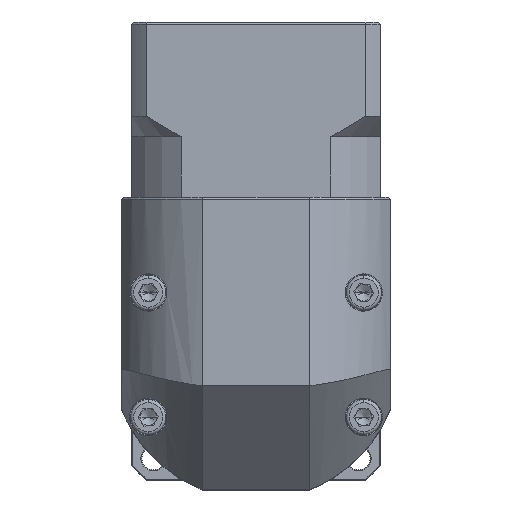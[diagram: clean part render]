
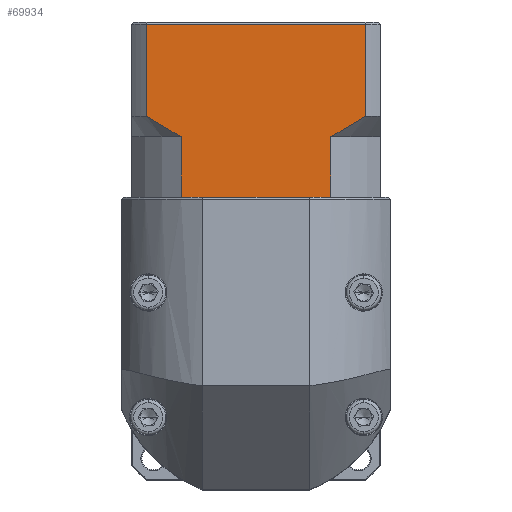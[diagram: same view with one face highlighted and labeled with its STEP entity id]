
A CAD part, top view. The second image highlights one B-rep face of the part: STEP entity #69934.
In plain terms, the highlighted planar face has unit normal (0, 0, 1).
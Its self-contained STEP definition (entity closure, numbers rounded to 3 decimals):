
#2590 = VERTEX_POINT ( 'NONE', #14181 ) ;
#2881 = B_SPLINE_CURVE_WITH_KNOTS ( 'NONE', 3,
 ( #42019, #113765, #114172, #96764, #69952, #61424 ),
 .UNSPECIFIED., .F., .F.,
 ( 4, 2, 4 ),
 ( 0.1, 0.104, 0.109 ),
 .UNSPECIFIED. ) ;
#3175 = EDGE_CURVE ( 'NONE', #33000, #36109, #58901, .T. ) ;
#3226 = LINE ( 'NONE', #79480, #39116 ) ;
#4662 = CARTESIAN_POINT ( 'NONE',  ( -80.371, 66.138, 62.797 ) ) ;
#7417 = VERTEX_POINT ( 'NONE', #97592 ) ;
#7911 = EDGE_CURVE ( 'NONE', #45858, #2590, #69798, .T. ) ;
#8450 = DIRECTION ( 'NONE',  ( 0., 1., 0. ) ) ;
#8922 = DIRECTION ( 'NONE',  ( -1., 0., 0. ) ) ;
#9228 = DIRECTION ( 'NONE',  ( 0., -1., 0. ) ) ;
#13620 = CARTESIAN_POINT ( 'NONE',  ( -35.886, 107.838, 62.797 ) ) ;
#14181 = CARTESIAN_POINT ( 'NONE',  ( -35.886, 85.638, 62.797 ) ) ;
#16466 = VECTOR ( 'NONE', #87106, 1000. ) ;
#18182 = CARTESIAN_POINT ( 'NONE',  ( -86.062, 83.865, 62.797 ) ) ;
#19973 = ORIENTED_EDGE ( 'NONE', *, *, #3175, .T. ) ;
#22008 = LINE ( 'NONE', #93307, #74819 ) ;
#22388 = PLANE ( 'NONE',  #26242 ) ;
#22825 = VECTOR ( 'NONE', #89731, 1000. ) ;
#26242 = AXIS2_PLACEMENT_3D ( 'NONE', #58075, #32089, #102285 ) ;
#26803 = CARTESIAN_POINT ( 'NONE',  ( -92.343, 107.838, 62.797 ) ) ;
#27655 = LINE ( 'NONE', #104227, #47140 ) ;
#28027 = VECTOR ( 'NONE', #9228, 1000. ) ;
#30667 = ORIENTED_EDGE ( 'NONE', *, *, #70016, .T. ) ;
#32089 = DIRECTION ( 'NONE',  ( 0., 0., -1. ) ) ;
#33000 = VERTEX_POINT ( 'NONE', #4662 ) ;
#34358 = CARTESIAN_POINT ( 'NONE',  ( -92.343, 66.138, 62.797 ) ) ;
#35521 = EDGE_CURVE ( 'NONE', #107924, #51519, #22008, .T. ) ;
#36109 = VERTEX_POINT ( 'NONE', #93681 ) ;
#39116 = VECTOR ( 'NONE', #8450, 1000. ) ;
#40088 = DIRECTION ( 'NONE',  ( 0., 1., 0. ) ) ;
#40247 = ORIENTED_EDGE ( 'NONE', *, *, #108101, .F. ) ;
#41514 = LINE ( 'NONE', #26803, #61020 ) ;
#42019 = CARTESIAN_POINT ( 'NONE',  ( -44.316, 80.638, 62.797 ) ) ;
#42654 = EDGE_CURVE ( 'NONE', #45858, #51519, #41514, .T. ) ;
#43820 = CARTESIAN_POINT ( 'NONE',  ( -88.801, 85.638, 62.797 ) ) ;
#44561 = CARTESIAN_POINT ( 'NONE',  ( -83.255, 82.189, 62.797 ) ) ;
#45858 = VERTEX_POINT ( 'NONE', #13620 ) ;
#47140 = VECTOR ( 'NONE', #68527, 1000. ) ;
#51519 = VERTEX_POINT ( 'NONE', #109652 ) ;
#52514 = VERTEX_POINT ( 'NONE', #84011 ) ;
#53120 = VECTOR ( 'NONE', #69784, 1000. ) ;
#54033 = CARTESIAN_POINT ( 'NONE',  ( -92.343, 66.138, 62.797 ) ) ;
#56257 = CARTESIAN_POINT ( 'NONE',  ( -44.316, 80.638, 62.797 ) ) ;
#58075 = CARTESIAN_POINT ( 'NONE',  ( -92.343, 108.338, 62.797 ) ) ;
#58901 = LINE ( 'NONE', #54033, #22825 ) ;
#59431 = B_SPLINE_CURVE_WITH_KNOTS ( 'NONE', 3,
 ( #43820, #80268, #18182, #44561, #97435, #78712 ),
 .UNSPECIFIED., .F., .F.,
 ( 4, 2, 4 ),
 ( 0.052, 0.057, 0.062 ),
 .UNSPECIFIED. ) ;
#61020 = VECTOR ( 'NONE', #8922, 1000. ) ;
#61424 = CARTESIAN_POINT ( 'NONE',  ( -35.886, 85.638, 62.797 ) ) ;
#63718 = LINE ( 'NONE', #34358, #16466 ) ;
#64448 = VERTEX_POINT ( 'NONE', #56257 ) ;
#64750 = ORIENTED_EDGE ( 'NONE', *, *, #7911, .F. ) ;
#65634 = FACE_OUTER_BOUND ( 'NONE', #85768, .T. ) ;
#68057 = ORIENTED_EDGE ( 'NONE', *, *, #81280, .T. ) ;
#68527 = DIRECTION ( 'NONE',  ( 1., 0., 0. ) ) ;
#68609 = CARTESIAN_POINT ( 'NONE',  ( -88.801, 85.638, 62.797 ) ) ;
#69784 = DIRECTION ( 'NONE',  ( 0., -1., 0. ) ) ;
#69798 = LINE ( 'NONE', #90731, #28027 ) ;
#69934 = ADVANCED_FACE ( 'NONE', ( #65634 ), #22388, .F. ) ;
#69952 = CARTESIAN_POINT ( 'NONE',  ( -37.249, 84.736, 62.797 ) ) ;
#70016 = EDGE_CURVE ( 'NONE', #7417, #52514, #27655, .T. ) ;
#71482 = ORIENTED_EDGE ( 'NONE', *, *, #35521, .F. ) ;
#71911 = ORIENTED_EDGE ( 'NONE', *, *, #99728, .T. ) ;
#72879 = ORIENTED_EDGE ( 'NONE', *, *, #42654, .T. ) ;
#73925 = LINE ( 'NONE', #104692, #53120 ) ;
#74819 = VECTOR ( 'NONE', #40088, 1000. ) ;
#74859 = ORIENTED_EDGE ( 'NONE', *, *, #100141, .T. ) ;
#78712 = CARTESIAN_POINT ( 'NONE',  ( -80.371, 80.638, 62.797 ) ) ;
#79480 = CARTESIAN_POINT ( 'NONE',  ( -80.371, 80.638, 62.797 ) ) ;
#80268 = CARTESIAN_POINT ( 'NONE',  ( -87.441, 84.738, 62.797 ) ) ;
#81280 = EDGE_CURVE ( 'NONE', #64448, #2590, #2881, .T. ) ;
#83486 = VERTEX_POINT ( 'NONE', #111328 ) ;
#84011 = CARTESIAN_POINT ( 'NONE',  ( -44.316, 66.138, 62.797 ) ) ;
#85768 = EDGE_LOOP ( 'NONE', ( #64750, #72879, #71482, #71911, #40247, #19973, #74859, #30667, #102843, #68057 ) ) ;
#87106 = DIRECTION ( 'NONE',  ( 1., 0., 0. ) ) ;
#89731 = DIRECTION ( 'NONE',  ( 1., 0., 0. ) ) ;
#90731 = CARTESIAN_POINT ( 'NONE',  ( -35.886, 80.638, 62.797 ) ) ;
#93307 = CARTESIAN_POINT ( 'NONE',  ( -88.801, 80.638, 62.797 ) ) ;
#93681 = CARTESIAN_POINT ( 'NONE',  ( -79.38, 66.138, 62.797 ) ) ;
#96764 = CARTESIAN_POINT ( 'NONE',  ( -38.628, 83.862, 62.797 ) ) ;
#97435 = CARTESIAN_POINT ( 'NONE',  ( -81.823, 81.386, 62.797 ) ) ;
#97592 = CARTESIAN_POINT ( 'NONE',  ( -45.307, 66.138, 62.797 ) ) ;
#99728 = EDGE_CURVE ( 'NONE', #107924, #83486, #59431, .T. ) ;
#100141 = EDGE_CURVE ( 'NONE', #36109, #7417, #63718, .T. ) ;
#102285 = DIRECTION ( 'NONE',  ( 0., 1., 0. ) ) ;
#102843 = ORIENTED_EDGE ( 'NONE', *, *, #103916, .F. ) ;
#103916 = EDGE_CURVE ( 'NONE', #64448, #52514, #73925, .T. ) ;
#104227 = CARTESIAN_POINT ( 'NONE',  ( -92.343, 66.138, 62.797 ) ) ;
#104692 = CARTESIAN_POINT ( 'NONE',  ( -44.316, 80.638, 62.797 ) ) ;
#107924 = VERTEX_POINT ( 'NONE', #68609 ) ;
#108101 = EDGE_CURVE ( 'NONE', #33000, #83486, #3226, .T. ) ;
#109652 = CARTESIAN_POINT ( 'NONE',  ( -88.801, 107.838, 62.797 ) ) ;
#111328 = CARTESIAN_POINT ( 'NONE',  ( -80.371, 80.638, 62.797 ) ) ;
#113765 = CARTESIAN_POINT ( 'NONE',  ( -42.859, 81.388, 62.797 ) ) ;
#114172 = CARTESIAN_POINT ( 'NONE',  ( -41.434, 82.188, 62.797 ) ) ;
